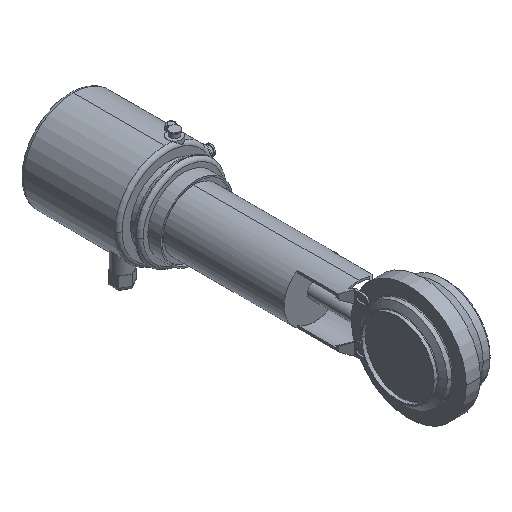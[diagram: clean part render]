
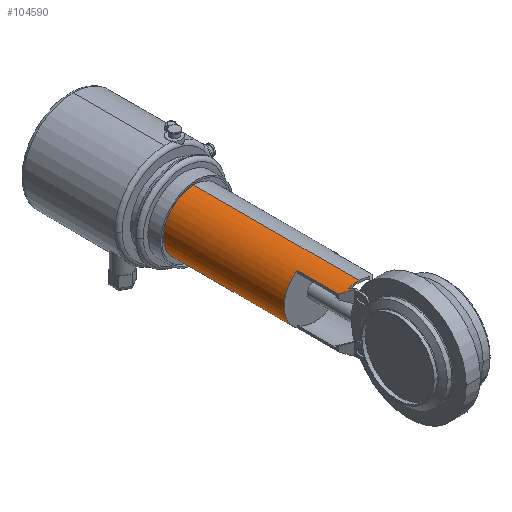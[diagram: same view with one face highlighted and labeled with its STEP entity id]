
A CAD part, isometric view. The second image highlights one B-rep face of the part: STEP entity #104590.
In plain terms, the highlighted cylindrical face has radius 42.5 mm (diameter 85 mm), a partial arc.
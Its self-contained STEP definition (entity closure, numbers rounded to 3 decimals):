
#95860=CARTESIAN_POINT('',(-438.648,176.528,
-35.075));
#95870=VERTEX_POINT('',#95860);
#95900=CARTESIAN_POINT('',(-414.648,176.528,
0.));
#95910=DIRECTION('',(0.,-1.,0.));
#95920=DIRECTION('',(0.,0.,1.));
#95930=AXIS2_PLACEMENT_3D('',#95900,#95910,#95920);
#95940=CIRCLE('',#95930,42.5);
#95950=CARTESIAN_POINT('',(-438.648,176.528,
35.075));
#95960=VERTEX_POINT('',#95950);
#95970=EDGE_CURVE('',#95960,#95870,#95940,.T.);
#98110=CARTESIAN_POINT('',(-414.648,113.128,
0.));
#98120=DIRECTION('',(0.,-1.,0.));
#98130=DIRECTION('',(0.,0.,-1.));
#98140=AXIS2_PLACEMENT_3D('',#98110,#98120,#98130);
#98150=CIRCLE('',#98140,42.5);
#98160=CARTESIAN_POINT('',(-414.648,113.128,-42.5));
#98170=VERTEX_POINT('',#98160);
#98200=CARTESIAN_POINT('',(-429.706,113.128,
-39.743));
#98210=VERTEX_POINT('',#98200);
#98220=EDGE_CURVE('',#98210,#98170,#98150,.T.);
#98480=CARTESIAN_POINT('',(-414.648,98.071,
0.));
#98490=DIRECTION('',(0.707,0.707,0.));
#98500=DIRECTION('',(0.707,-0.707,0.));
#98510=AXIS2_PLACEMENT_3D('',#98480,#98490,#98500);
#98520=ELLIPSE('',#98510,60.104,42.5);
#98530=CARTESIAN_POINT('',(-424.648,108.071,
-41.307));
#98540=VERTEX_POINT('',#98530);
#98550=EDGE_CURVE('',#98540,#98210,#98520,.T.);
#98730=CARTESIAN_POINT('',(-438.648,373.39,
-35.075));
#98740=DIRECTION('',(0.,-1.,0.));
#98750=VECTOR('',#98740,1.);
#98760=LINE('',#98730,#98750);
#98770=CARTESIAN_POINT('',(-438.648,118.535,
-35.075));
#98780=VERTEX_POINT('',#98770);
#98790=EDGE_CURVE('',#95870,#98780,#98760,.T.);
#99210=CARTESIAN_POINT('',(-427.148,100.58,
-40.62));
#99220=VERTEX_POINT('',#99210);
#99250=CARTESIAN_POINT('',(-427.148,373.39,
-40.62));
#99260=DIRECTION('',(0.,-1.,0.));
#99270=VECTOR('',#99260,1.);
#99280=LINE('',#99250,#99270);
#99290=CARTESIAN_POINT('',(-427.148,107.035,
-40.62));
#99300=VERTEX_POINT('',#99290);
#99310=EDGE_CURVE('',#99300,#99220,#99280,.T.);
#100890=CARTESIAN_POINT('',(-427.148,110.571,
40.62));
#100900=VERTEX_POINT('',#100890);
#100930=CARTESIAN_POINT('',(-414.648,98.071,
0.));
#100940=DIRECTION('',(0.707,0.707,0.));
#100950=DIRECTION('',(-0.707,0.707,0.));
#100960=AXIS2_PLACEMENT_3D('',#100930,#100940,#100950);
#100970=ELLIPSE('',#100960,60.104,42.5);
#100980=CARTESIAN_POINT('',(-429.706,113.128,
39.743));
#100990=VERTEX_POINT('',#100980);
#101000=EDGE_CURVE('',#100990,#100900,#100970,.T.);
#102330=CARTESIAN_POINT('',(-438.648,118.535,
35.075));
#102340=VERTEX_POINT('',#102330);
#102660=CARTESIAN_POINT('',(-438.648,373.39,
35.075));
#102670=DIRECTION('',(0.,-1.,0.));
#102680=VECTOR('',#102670,1.);
#102690=LINE('',#102660,#102680);
#102700=EDGE_CURVE('',#95960,#102340,#102690,.T.);
#103580=CARTESIAN_POINT('',(-414.648,113.128,
0.));
#103590=DIRECTION('',(0.,-1.,0.));
#103600=DIRECTION('',(0.,0.,1.));
#103610=AXIS2_PLACEMENT_3D('',#103580,#103590,#103600);
#103620=CIRCLE('',#103610,42.5);
#103630=CARTESIAN_POINT('',(-414.648,113.128,42.5));
#103640=VERTEX_POINT('',#103630);
#103650=EDGE_CURVE('',#103640,#100990,#103620,.T.);
#103750=CARTESIAN_POINT('',(-414.648,176.528,
0.));
#103760=DIRECTION('',(0.,-1.,0.));
#103770=DIRECTION('',(0.,0.,-1.));
#103780=AXIS2_PLACEMENT_3D('',#103750,#103760,#103770);
#103790=CYLINDRICAL_SURFACE('',#103780,42.5);
#103800=CARTESIAN_POINT('',(-414.648,176.528,42.5));
#103810=DIRECTION('',(0.,-1.,0.));
#103820=VECTOR('',#103810,1.);
#103830=LINE('',#103800,#103820);
#103840=CARTESIAN_POINT('',(-414.648,346.528,42.5));
#103850=VERTEX_POINT('',#103840);
#103860=EDGE_CURVE('',#103850,#103640,#103830,.T.);
#103870=ORIENTED_EDGE('',*,*,#103860,.F.);
#103880=ORIENTED_EDGE('',*,*,#103650,.F.);
#103890=ORIENTED_EDGE('',*,*,#101000,.F.);
#103900=CARTESIAN_POINT('',(-427.148,373.39,
40.62));
#103910=DIRECTION('',(0.,-1.,0.));
#103920=VECTOR('',#103910,1.);
#103930=LINE('',#103900,#103920);
#103940=CARTESIAN_POINT('',(-427.148,107.035,
40.62));
#103950=VERTEX_POINT('',#103940);
#103960=EDGE_CURVE('',#100900,#103950,#103930,.T.);
#103970=ORIENTED_EDGE('',*,*,#103960,.F.);
#103980=CARTESIAN_POINT('',(-414.648,94.535,
0.));
#103990=DIRECTION('',(-0.707,-0.707,0.));
#104000=DIRECTION('',(0.707,-0.707,0.));
#104010=AXIS2_PLACEMENT_3D('',#103980,#103990,#104000);
#104020=ELLIPSE('',#104010,60.104,42.5);
#104030=EDGE_CURVE('',#103950,#102340,#104020,.T.);
#104040=ORIENTED_EDGE('',*,*,#104030,.F.);
#104050=ORIENTED_EDGE('',*,*,#102700,.T.);
#104060=ORIENTED_EDGE('',*,*,#95970,.F.);
#104070=ORIENTED_EDGE('',*,*,#98790,.F.);
#104080=CARTESIAN_POINT('',(-414.648,94.535,
0.));
#104090=DIRECTION('',(0.707,0.707,0.));
#104100=DIRECTION('',(0.707,-0.707,0.));
#104110=AXIS2_PLACEMENT_3D('',#104080,#104090,#104100);
#104120=ELLIPSE('',#104110,60.104,42.5);
#104130=EDGE_CURVE('',#99300,#98780,#104120,.T.);
#104140=ORIENTED_EDGE('',*,*,#104130,.T.);
#104150=ORIENTED_EDGE('',*,*,#99310,.F.);
#104160=CARTESIAN_POINT('',(-414.648,-255.939,
0.));
#104170=DIRECTION('',(0.,-0.113,-0.994));
#104180=DIRECTION('',(0.,0.994,-0.113));
#104190=AXIS2_PLACEMENT_3D('',#104160,#104170,#104180);
#104200=ELLIPSE('',#104190,375.431,42.5);
#104210=CARTESIAN_POINT('',(-425.296,105.183,
-41.145));
#104220=VERTEX_POINT('',#104210);
#104230=EDGE_CURVE('',#99220,#104220,#104200,.T.);
#104240=ORIENTED_EDGE('',*,*,#104230,.F.);
#104250=CARTESIAN_POINT('',(-414.648,94.535,
0.));
#104260=DIRECTION('',(-0.707,-0.707,0.));
#104270=DIRECTION('',(-0.707,0.707,0.));
#104280=AXIS2_PLACEMENT_3D('',#104250,#104260,#104270);
#104290=ELLIPSE('',#104280,60.104,42.5);
#104300=CARTESIAN_POINT('',(-424.648,104.535,
-41.307));
#104310=VERTEX_POINT('',#104300);
#104320=EDGE_CURVE('',#104220,#104310,#104290,.T.);
#104330=ORIENTED_EDGE('',*,*,#104320,.F.);
#104340=CARTESIAN_POINT('',(-424.648,373.39,
-41.307));
#104350=DIRECTION('',(0.,-1.,0.));
#104360=VECTOR('',#104350,1.);
#104370=LINE('',#104340,#104360);
#104380=EDGE_CURVE('',#98540,#104310,#104370,.T.);
#104390=ORIENTED_EDGE('',*,*,#104380,.T.);
#104400=ORIENTED_EDGE('',*,*,#98550,.F.);
#104410=ORIENTED_EDGE('',*,*,#98220,.F.);
#104420=CARTESIAN_POINT('',(-414.648,176.528,-42.5));
#104430=DIRECTION('',(0.,-1.,0.));
#104440=VECTOR('',#104430,1.);
#104450=LINE('',#104420,#104440);
#104460=CARTESIAN_POINT('',(-414.648,346.528,-42.5));
#104470=VERTEX_POINT('',#104460);
#104480=EDGE_CURVE('',#104470,#98170,#104450,.T.);
#104490=ORIENTED_EDGE('',*,*,#104480,.T.);
#104500=CARTESIAN_POINT('',(-414.648,346.528,
0.));
#104510=DIRECTION('',(0.,-1.,0.));
#104520=DIRECTION('',(0.,0.,-1.));
#104530=AXIS2_PLACEMENT_3D('',#104500,#104510,#104520);
#104540=CIRCLE('',#104530,42.5);
#104550=EDGE_CURVE('',#103850,#104470,#104540,.T.);
#104560=ORIENTED_EDGE('',*,*,#104550,.T.);
#104570=EDGE_LOOP('',(#104560,#104490,#104410,#104400,#104390,#104330,
#104240,#104150,#104140,#104070,#104060,#104050,#104040,#103970,#103890,
#103880,#103870));
#104580=FACE_OUTER_BOUND('',#104570,.T.);
#104590=ADVANCED_FACE('',(#104580),#103790,.T.);
